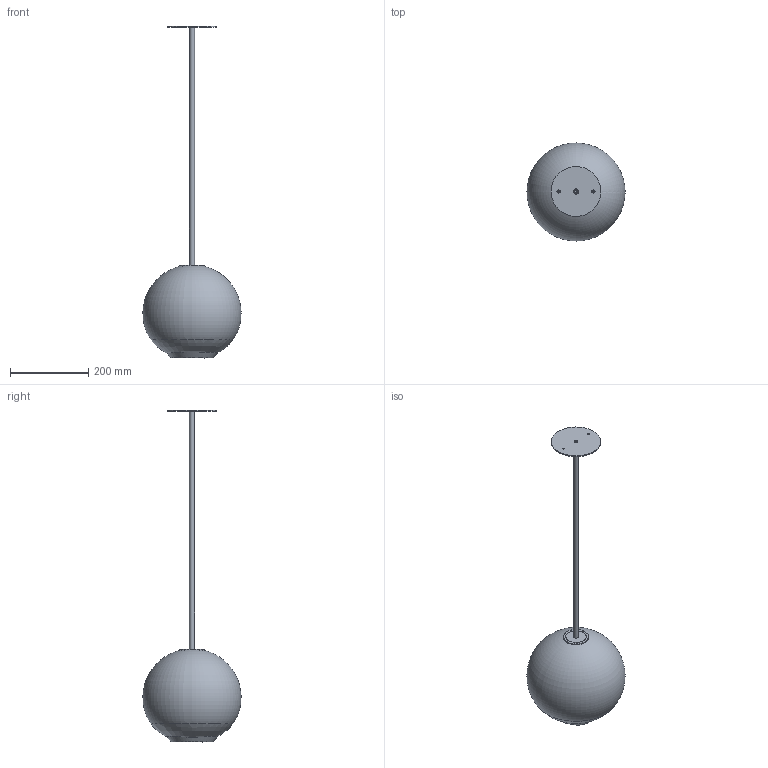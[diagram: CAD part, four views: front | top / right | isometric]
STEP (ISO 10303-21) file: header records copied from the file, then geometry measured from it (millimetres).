
FILE_DESCRIPTION(/* description */ (''),/* implementation_level */ '2;1');
FILE_NAME(/* name */ 'SkLO_Float_1.0_Pendant_LT253_3D',/* time_stamp */ '2024-10-23T15:48:21+02:00',/* author */ (''),/* organization */ (''),/* preprocessor_version */ 'ST-DEVELOPER v16.5',/* originating_system */ 'Rhino 7.34',/* authorisation */ '');
FILE_SCHEMA (('CONFIG_CONTROL_DESIGN'));
Length unit declared in the file: millimetre
Products named in the file (1): Document
Bounding box: 249.99 x 250 x 846.17 mm (x, y, z)
Volume: 1695660.4 mm3; surface area: 494068.7 mm2
Topology: 12 solids, 13 shells, 387 faces, 954 edges, 612 vertices
Faces by surface type: plane 205, cylinder 105, bspline 77
Full cylindrical faces by diameter (mm): 4 x2, 4.2 x2, 8 x1, 10.2 x2, 11.236 x1, 13 x2, 42 x1, 42.416 x1, 45 x1, 47.21 x1, 51.33 x2, 52 x1, 52.4 x1, 53 x1, 53.931 x1, 55 x1, 62 x1, 64 x2, 127 x1
Entity records: 63105 total; most frequent: CARTESIAN_POINT 56668, ORIENTED_EDGE 1893, EDGE_CURVE 947, B_SPLINE_CURVE_WITH_KNOTS 656, VERTEX_POINT 610, EDGE_LOOP 432, ADVANCED_FACE 387, FACE_OUTER_BOUND 387
